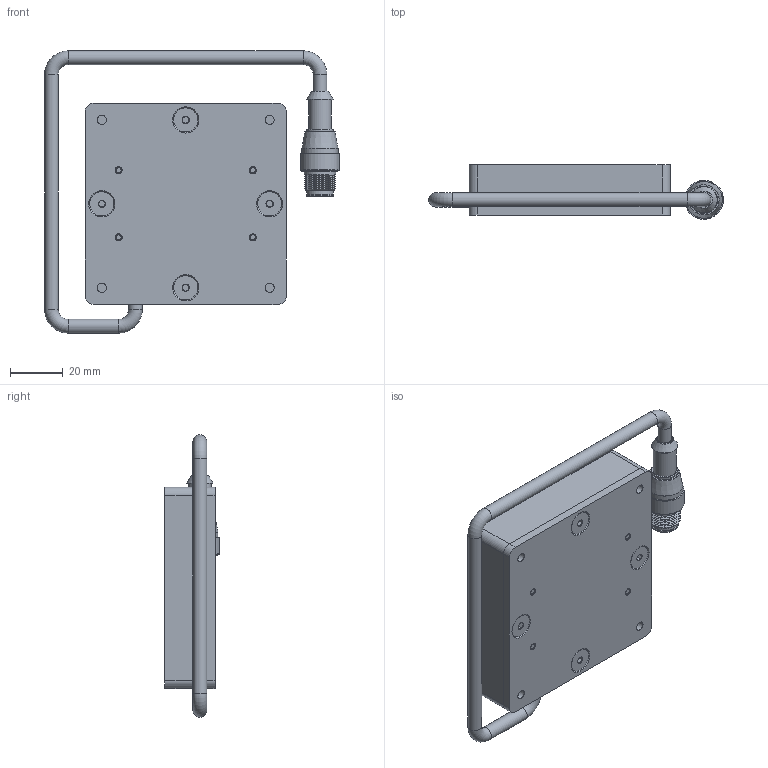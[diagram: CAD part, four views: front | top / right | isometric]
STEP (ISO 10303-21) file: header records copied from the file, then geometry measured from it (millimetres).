
FILE_DESCRIPTION (( 'STEP AP214' ), '1' );
FILE_NAME ('SBL22-XXX-WDC.STEP', '2026-04-17T16:31:38', ( '' ), ( '' ), 'SwSTEP 2.0', 'SolidWorks 2025', '' );
FILE_SCHEMA (( 'AUTOMOTIVE_DESIGN' ));
Length unit declared in the file: inch
Products named in the file (11): Housing SBL22; .125 Nylon Spacer; Hex Standoff .375 x 8-32; SBL22-XXX-WDC; RS 4.4T-0.3 Connector; Backplate BL22; SC Pigtail Complete 1; WD-SBLYYXX_2x2; 6-32 x .3125 Nylon SHCS_95868A145; MC Pigtail; 8-32 x .375 82deg FHCS_92210A192
Assembly tree (22 placements, depth 3):
  SBL22-XXX-WDC
    Backplate BL22
    Housing SBL22
    WD-SBLYYXX_2x2
    8-32 x .375 82deg FHCS_92210A192  x4
    Hex Standoff .375 x 8-32  x4
    .125 Nylon Spacer  x4
    6-32 x .3125 Nylon SHCS_95868A145  x4
    SC Pigtail Complete 1
      MC Pigtail
      RS 4.4T-0.3 Connector
Bounding box: 111.55 x 20.62 x 106.81 mm (x, y, z)
Volume: 81986.5 mm3; surface area: 50494.2 mm2
Topology: 21 solids, 21 shells, 441 faces, 929 edges, 557 vertices
Faces by surface type: plane 176, cone 115, cylinder 110, torus 20, bspline 20
Full cylindrical faces by diameter (mm): 0.762 x4, 2.705 x4, 3.454 x8, 3.556 x4, 4.496 x8, 5.207 x5, 5.74 x4, 6.35 x4, 6.604 x4, 6.858 x4, 8.382 x1, 8.636 x1, 9.119 x4, 10.16 x2, 10.541 x1, 11.938 x1, 13.716 x2, 14.732 x1
Entity records: 10847 total; most frequent: CARTESIAN_POINT 4275, DIRECTION 1129, ORIENTED_EDGE 860, AXIS2_PLACEMENT_3D 484, EDGE_CURVE 430, EDGE_LOOP 402, VERTEX_POINT 320, FACE_OUTER_BOUND 304
